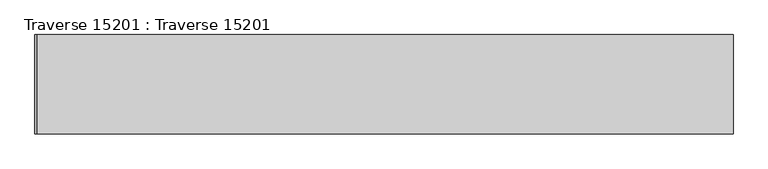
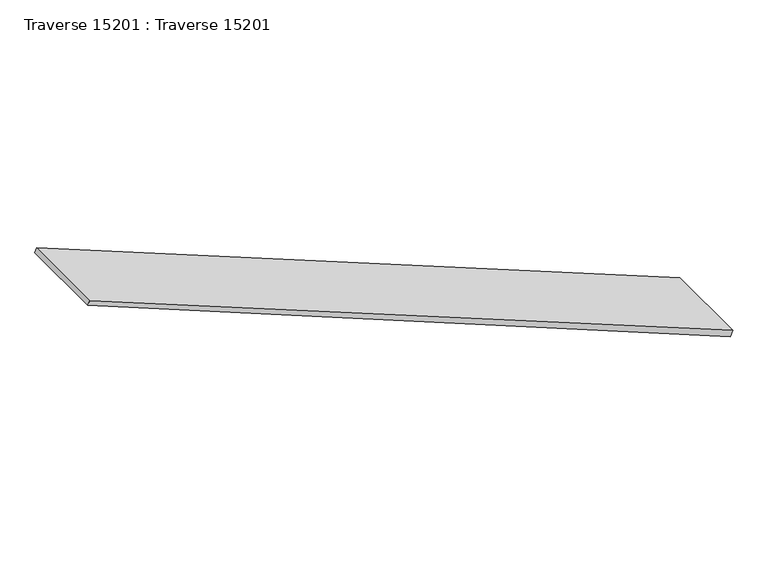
"""IFC4 building model written with IfcOpenShell, lengths in millimetres: beam geometry, Traverse 15201 : Traverse 15201."""

from ifc_helpers import new_model, si_unit, frame, origin, place, context, project, spatial, polyline, outline, extrude, source, transform, mapped, element, save


def traverse_15201_traverse_15201_00fd0003(model_context):
    return source(origin(), model_context, "Body", "SweptSolid", [
        extrude(outline(polyline([(7006.4238875, 13346.1538271), (6416.1401846, 14814.4047702), (6430.0575624, 14819.9999999), (7016.1126453, 13350.016652), (7006.4238875, 13346.1538271)])), frame((0.0, -225.0, 0.0), z_axis=(0.0, 1.0, 0.0), x_axis=(0.0, 0.0, 1.0)), (0.0, 0.0, 1.0), 210.0),
    ])


if __name__ == "__main__":
    model = new_model("IFC4")
    model_context = context("Model", 3, world=origin())
    ifc_project = project(units=[si_unit("LENGTHUNIT", "METRE", prefix="MILLI")], contexts=[model_context])
    site = spatial("IfcSite", under=ifc_project)
    building = spatial("IfcBuilding", under=site)
    placement = place(None, origin())
    traverse_15201_traverse_15201_shape = traverse_15201_traverse_15201_00fd0003(model_context)
    element("IfcBeam", 1, ObjectType="Traverse 15201 : Traverse 15201", at=placement, inside=building, context=model_context, shape_type="MappedRepresentation", body=[
        mapped(traverse_15201_traverse_15201_shape, transform((0.0, 0.0, 0.0), x_axis=(1.0, 0.0, 0.0), y_axis=(0.0, 1.0, 0.0), z_axis=(0.0, 0.0, 1.0))),
    ])
    save(model, "model.ifc")
